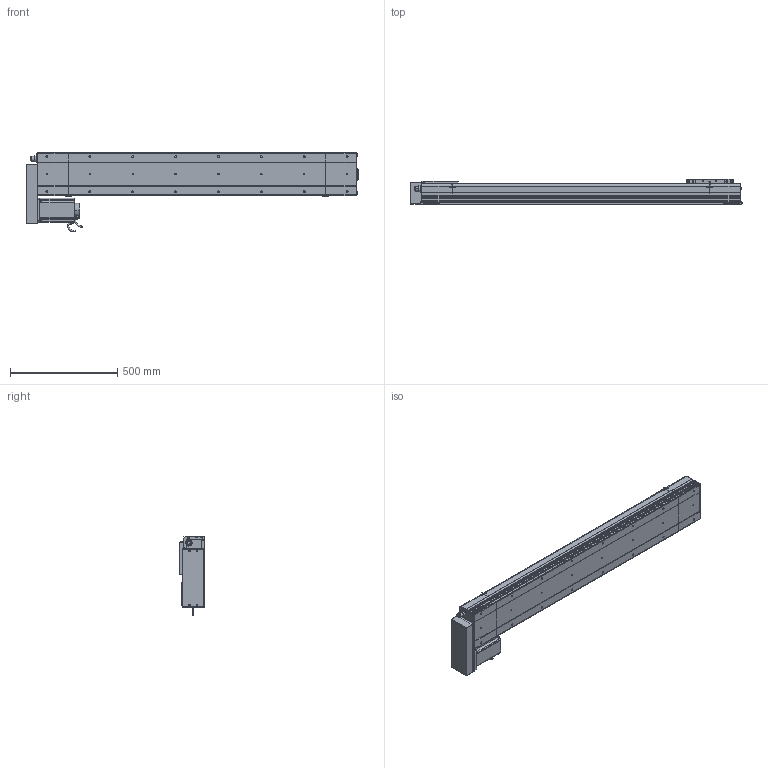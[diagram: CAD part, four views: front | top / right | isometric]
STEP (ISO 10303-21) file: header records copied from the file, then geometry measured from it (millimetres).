
FILE_DESCRIPTION (( 'STEP AP214' ), '1' );
FILE_NAME ('D20 CSH BR S1200.STEP', '2010-06-30T08:20:00', ( 'Conseil Régional Haute-Normandie' ), ( 'Conseil Régional Haute-Normandie' ), 'SwSTEP 2.0', 'SolidWorks 2010', '' );
FILE_SCHEMA (( 'AUTOMOTIVE_DESIGN' ));
Length unit declared in the file: millimetre
Products named in the file (31): Glissiere_Default; Head D20 BR_Default; Conecteur_Default; codeur 110BLDC170A-630x; corps 110BLDC170A-630x; Plaque de Bout Head BR D20_Default; avant 110BLDC170A-630x; Moteur motionking 110BLDC170A-640x; Support moteur BR D20_Default; Conecteur2_Default; Plaque De Serrage Head BR D20_Default; Couvercle Head BR_Default; Corp Head BR D20_Default; vis M5 L15_Default; vis M5 L47_Default; vis M5 L30_Default; Cache Moteur BR D20_Default; ecrou_Default; clavette; Corp Tail D20_Default; Tail D20_Default; D20 CSH BR S1200; Plaque De Serrage D20_Default; Plaque de Bout Tail D20_Default; Couvercle_Default; Couvercle S1200_Default; Corp S1200_Default; Corp D20 S1200_Default; Chariot D20_Default; Support Chariot D20_Default
Assembly tree (60 placements, depth 4):
  D20 CSH BR S1200
    Tail D20_Default
      vis M5 L15_Default  x6
      Plaque de Bout Tail D20_Default
      Corp Tail D20_Default
      Couvercle_Default
      Plaque De Serrage D20_Default
    Corp D20 S1200_Default
      Couvercle S1200_Default
      Corp S1200_Default
    Chariot D20_Default
      Support Chariot D20_Default
      Chariot D20_Default
      Glissiere_Default
      vis M5 L15_Default  x8
    Head D20 BR_Default
      ecrou_Default  x4
      vis M5 L15_Default  x8
      vis M5 L30_Default  x4
      Plaque De Serrage Head BR D20_Default
      Cache Moteur BR D20_Default
      Moteur motionking 110BLDC170A-640x
        corps 110BLDC170A-630x
        Conecteur2_Default
        avant 110BLDC170A-630x
        Conecteur_Default
        clavette
        codeur 110BLDC170A-630x
      vis M5 L47_Default  x4
      Support moteur BR D20_Default
      Couvercle Head BR_Default
      Corp Head BR D20_Default
      Plaque de Bout Head BR D20_Default
Bounding box: 1547.7 x 120 x 372 mm (x, y, z)
Volume: 12440481.1 mm3; surface area: 2355732.5 mm2
Topology: 97 solids, 97 shells, 3574 faces, 8969 edges, 5841 vertices
Faces by surface type: plane 2009, bspline 806, cylinder 613, torus 83, cone 63
Entity records: 157001 total; most frequent: CARTESIAN_POINT 81888, ORIENTED_EDGE 14886, DIRECTION 11151, EDGE_CURVE 7443, VERTEX_POINT 4929, VECTOR 4871, LINE 4871, EDGE_LOOP 3180
